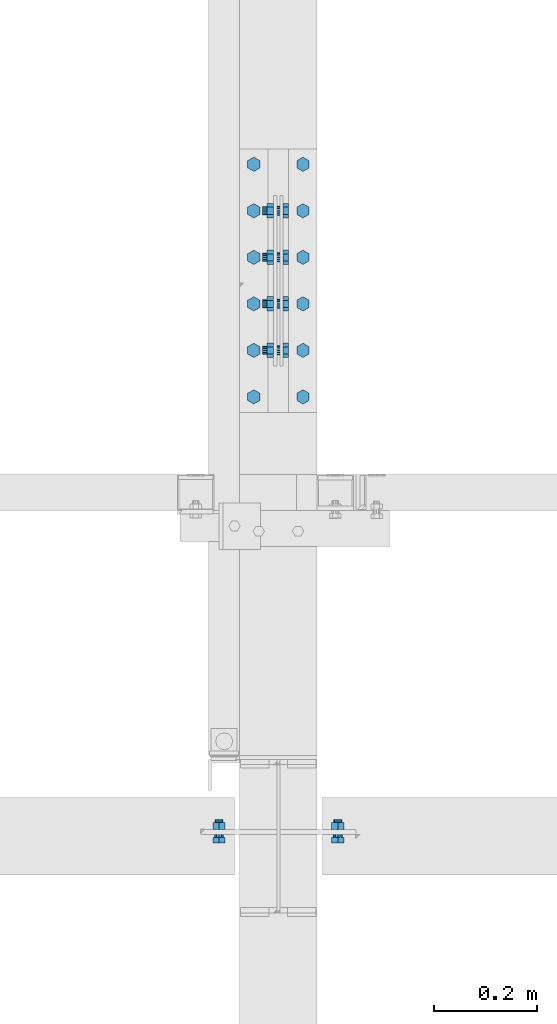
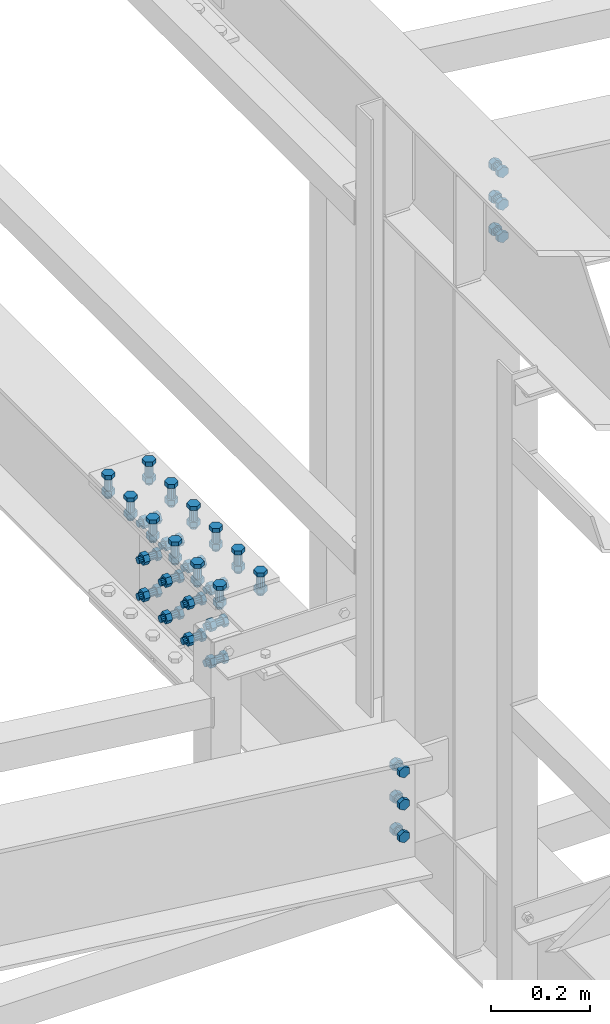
# One storey, part 158 of 3134: 8 mechanical fasteners, 4 elements without a shape of their own.
"""IFC2X3 building model written with IfcOpenShell, lengths in millimetres."""

from ifc_helpers import new_model, si_unit, frame, origin_with_axes, place, context, subcontext, project, spatial, faceted_brep, source, transform, mapped, material, type_object, element, aggregate, save


model = new_model("IFC2X3")

# Units and contexts
model_context = context("Model", 3, precision=1e-05, world=origin_with_axes())
body_context = subcontext(model_context, "Body", "Model", "MODEL_VIEW")
ifc_project = project(units=[si_unit("LENGTHUNIT", "METRE", prefix="MILLI"), si_unit("AREAUNIT", "SQUARE_METRE"), si_unit("VOLUMEUNIT", "CUBIC_METRE"), si_unit("MASSUNIT", "GRAM", prefix="KILO"), si_unit("TIMEUNIT", "SECOND"), si_unit("PLANEANGLEUNIT", "RADIAN"), si_unit("SOLIDANGLEUNIT", "STERADIAN"), si_unit("THERMODYNAMICTEMPERATUREUNIT", "DEGREE_CELSIUS"), si_unit("LUMINOUSINTENSITYUNIT", "LUMEN")], contexts=[model_context])

# Site, building, storey
site_placement = place(None, origin_with_axes())
site = spatial("IfcSite", under=ifc_project, at=site_placement, CompositionType="ELEMENT")
building_placement = place(site_placement, origin_with_axes())
building = spatial("IfcBuilding", under=site, at=building_placement, Name="Undefined", CompositionType="ELEMENT")
storey_placement = place(building_placement, origin_with_axes())
storey = spatial("IfcBuildingStorey", under=building, at=storey_placement, Name="Undefined", CompositionType="ELEMENT", Elevation=0.0)

# Assembly, mechanical fastener
assembly_1_placement = place(storey_placement, origin_with_axes())
assembly_1 = element("IfcElementAssembly", 1, at=assembly_1_placement, inside=storey, Name="300", AssemblyPlace="NOTDEFINED", PredefinedType="RIGID_FRAME")
ifc_material = material(Name="8.8")
mechanical_fastener_type = type_object("IfcMechanicalFastenerType", Name="Bolt assembly")
shared_shape_1 = source(origin_with_axes(), body_context, "Body", "Brep", [
    faceted_brep([(13.856406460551, -13.0499999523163, 0.0), (6.92820323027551, -13.0499999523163, 12.0), (-6.92820323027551, -13.0499999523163, 12.0), (-13.856406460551, -13.0499999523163, 1.69692038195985e-15), (-6.92820323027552, -13.0499999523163, -12.0), (6.9282032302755, -13.0499999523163, -12.0), (6.9282032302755, -3.04999995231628, -12.0), (-6.92820323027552, -3.04999995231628, -12.0), (-13.856406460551, -3.04999995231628, 1.69692038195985e-15), (-6.92820323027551, -3.04999995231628, 12.0), (6.92820323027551, -3.04999995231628, 12.0), (13.856406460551, -3.04999995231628, 0.0), (8.0, -3.04999995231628, 0.0), (6.92820323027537, -3.04999995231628, 4.00000000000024), (3.99999999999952, -3.04999995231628, 6.92820323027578), (-8.29068785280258e-13, -3.04999995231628, 8.0), (-4.00000000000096, -3.04999995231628, 6.92820323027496), (-6.9282032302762, -3.04999995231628, 3.99999999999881), (-8.0, -3.04999995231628, -1.65813757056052e-12), (-6.92820323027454, -3.04999995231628, -4.00000000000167), (-3.99999999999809, -3.04999995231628, -6.92820323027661), (2.47832457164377e-12, -3.04999995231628, -8.0), (4.00000000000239, -3.04999995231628, -6.92820323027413), (6.92820323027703, -3.04999995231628, -3.99999999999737), (6.92820323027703, 31.9500000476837, -3.99999999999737), (4.00000000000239, 31.9500000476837, -6.92820323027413), (2.47832457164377e-12, 31.9500000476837, -8.0), (-3.99999999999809, 31.9500000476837, -6.92820323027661), (-6.92820323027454, 31.9500000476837, -4.00000000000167), (-8.0, 31.9500000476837, -1.65813757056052e-12), (-6.9282032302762, 31.9500000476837, 3.99999999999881), (-4.00000000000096, 31.9500000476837, 6.92820323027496), (-8.29068785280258e-13, 31.9500000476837, 8.0), (3.99999999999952, 31.9500000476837, 6.92820323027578), (6.92820323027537, 31.9500000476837, 4.00000000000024), (8.0, 31.9500000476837, 0.0), (13.856406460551, 13.0500000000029, 0.0), (6.92820323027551, 13.0500000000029, 12.0), (-6.92820323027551, 13.0500000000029, 12.0), (-13.856406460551, 13.0500000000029, 1.69692038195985e-15), (-6.92820323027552, 13.0500000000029, -12.0), (6.9282032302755, 13.0500000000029, -12.0), (6.9282032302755, 26.0500000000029, -12.0), (-6.92820323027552, 26.0500000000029, -12.0), (-13.856406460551, 26.0500000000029, 1.69692038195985e-15), (-6.92820323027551, 26.0500000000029, 12.0), (6.92820323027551, 26.0500000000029, 12.0), (13.856406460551, 26.0500000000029, 0.0)], [[[0, 1, 2, 3, 4, 5]], [[6, 7, 8, 9, 10, 11]], [[0, 11, 10, 1]], [[1, 10, 9, 2]], [[2, 9, 8, 3]], [[3, 8, 7, 4]], [[4, 7, 6, 5]], [[5, 6, 11, 0]], [[12, 13, 14, 15, 16, 17, 18, 19, 20, 21, 22, 23]], [[24, 25, 26, 27, 28, 29, 30, 31, 32, 33, 34, 35]], [[12, 35, 34, 13]], [[13, 34, 33, 14]], [[14, 33, 32, 15]], [[15, 32, 31, 16]], [[16, 31, 30, 17]], [[17, 30, 29, 18]], [[18, 29, 28, 19]], [[19, 28, 27, 20]], [[20, 27, 26, 21]], [[21, 26, 25, 22]], [[22, 25, 24, 23]], [[23, 24, 35, 12]], [[36, 37, 38, 39, 40, 41]], [[42, 43, 44, 45, 46, 47]], [[36, 47, 46, 37]], [[37, 46, 45, 38]], [[38, 45, 44, 39]], [[39, 44, 43, 40]], [[40, 43, 42, 41]], [[41, 42, 47, 36]]]),
    faceted_brep([(9.0, 2.95000000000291, 0.0), (7.79422863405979, 2.95000000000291, 4.50000000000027), (4.49999999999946, 2.95000000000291, 7.79422863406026), (-9.3270238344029e-13, 2.95000000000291, 9.0), (-4.50000000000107, 2.95000000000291, 7.79422863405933), (-7.79422863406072, 2.95000000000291, 4.49999999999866), (-9.0, 2.95000000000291, -1.86540476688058e-12), (-7.79422863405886, 2.95000000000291, -4.50000000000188), (-4.49999999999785, 2.95000000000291, -7.79422863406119), (2.78811514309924e-12, 2.95000000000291, -9.0), (4.50000000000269, 2.95000000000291, -7.7942286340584), (7.79422863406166, 2.95000000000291, -4.49999999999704), (7.79422863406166, 13.0500000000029, -4.49999999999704), (4.50000000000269, 13.0500000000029, -7.7942286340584), (2.78811514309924e-12, 13.0500000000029, -9.0), (-4.49999999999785, 13.0500000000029, -7.79422863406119), (-7.79422863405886, 13.0500000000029, -4.50000000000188), (-9.0, 13.0500000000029, -1.86540476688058e-12), (-7.79422863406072, 13.0500000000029, 4.49999999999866), (-4.50000000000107, 13.0500000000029, 7.79422863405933), (-9.3270238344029e-13, 13.0500000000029, 9.0), (4.49999999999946, 13.0500000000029, 7.79422863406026), (7.79422863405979, 13.0500000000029, 4.50000000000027), (9.0, 13.0500000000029, 0.0), (9.0, -2.94999995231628, 0.0), (7.79422863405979, -2.94999995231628, 4.50000000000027), (4.49999999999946, -2.94999995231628, 7.79422863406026), (-9.3270238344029e-13, -2.94999995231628, 9.0), (-4.50000000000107, -2.94999995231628, 7.79422863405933), (-7.79422863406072, -2.94999995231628, 4.49999999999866), (-9.0, -2.94999995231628, -1.86540476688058e-12), (-7.79422863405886, -2.94999995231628, -4.50000000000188), (-4.49999999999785, -2.94999995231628, -7.79422863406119), (2.78811514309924e-12, -2.94999995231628, -9.0), (4.50000000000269, -2.94999995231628, -7.7942286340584), (7.79422863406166, -2.94999995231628, -4.49999999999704), (7.79422863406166, 3.14999995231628, -4.49999999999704), (4.50000000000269, 3.14999995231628, -7.7942286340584), (2.78811514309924e-12, 3.14999995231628, -9.0), (-4.49999999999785, 3.14999995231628, -7.79422863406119), (-7.79422863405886, 3.14999995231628, -4.50000000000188), (-9.0, 3.14999995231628, -1.86540476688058e-12), (-7.79422863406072, 3.14999995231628, 4.49999999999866), (-4.50000000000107, 3.14999995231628, 7.79422863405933), (-9.3270238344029e-13, 3.14999995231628, 9.0), (4.49999999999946, 3.14999995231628, 7.79422863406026), (7.79422863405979, 3.14999995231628, 4.50000000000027), (9.0, 3.14999995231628, 0.0)], [[[0, 1, 2, 3, 4, 5, 6, 7, 8, 9, 10, 11]], [[12, 13, 14, 15, 16, 17, 18, 19, 20, 21, 22, 23]], [[0, 23, 22, 1]], [[1, 22, 21, 2]], [[2, 21, 20, 3]], [[3, 20, 19, 4]], [[4, 19, 18, 5]], [[5, 18, 17, 6]], [[6, 17, 16, 7]], [[7, 16, 15, 8]], [[8, 15, 14, 9]], [[9, 14, 13, 10]], [[10, 13, 12, 11]], [[11, 12, 23, 0]], [[24, 25, 26, 27, 28, 29, 30, 31, 32, 33, 34, 35]], [[36, 37, 38, 39, 40, 41, 42, 43, 44, 45, 46, 47]], [[24, 47, 46, 25]], [[25, 46, 45, 26]], [[26, 45, 44, 27]], [[27, 44, 43, 28]], [[28, 43, 42, 29]], [[29, 42, 41, 30]], [[30, 41, 40, 31]], [[31, 40, 39, 32]], [[32, 39, 38, 33]], [[33, 38, 37, 34]], [[34, 37, 36, 35]], [[35, 36, 47, 24]]]),
])
mechanical_fastener_1_placement = place(assembly_1_placement, frame((55760.0, 27250.0, 4337.44269270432), z_axis=(1.0, 0.0, 0.0), x_axis=(0.0, 0.0, -1.0)))
mechanical_fastener_1 = element("IfcMechanicalFastener", 2, at=mechanical_fastener_1_placement, type_object=mechanical_fastener_type, material=ifc_material, Name="Bolt assembly", NominalDiameter=16.0, NominalLength=35.0, context=body_context, shape_type="MappedRepresentation", body=[
    mapped(shared_shape_1, transform((0.0, 0.0, 0.0))),
    mapped(shared_shape_1, transform((80.0, 0.0, 0.0))),
    mapped(shared_shape_1, transform((160.0, 0.0, 0.0))),
])
aggregate(assembly_1, [mechanical_fastener_1])

assembly_2_placement = place(storey_placement, origin_with_axes())
assembly_2 = element("IfcElementAssembly", 3, at=assembly_2_placement, inside=storey, Name="300", AssemblyPlace="NOTDEFINED", PredefinedType="RIGID_FRAME")
mechanical_fastener_2_placement = place(assembly_2_placement, frame((55990.0, 27250.0, 5735.35014950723), z_axis=(1.0, 0.0, 0.0), x_axis=(0.0, 0.0, -1.0)))
mechanical_fastener_2 = element("IfcMechanicalFastener", 4, at=mechanical_fastener_2_placement, type_object=mechanical_fastener_type, material=ifc_material, Name="Bolt assembly", NominalDiameter=16.0, NominalLength=35.0, context=body_context, shape_type="MappedRepresentation", body=[
    mapped(shared_shape_1, transform((0.0, 0.0, 0.0))),
    mapped(shared_shape_1, transform((80.0, 0.0, 0.0))),
    mapped(shared_shape_1, transform((160.0, 0.0, 0.0))),
])
aggregate(assembly_2, [mechanical_fastener_2])

assembly_3_placement = place(storey_placement, origin_with_axes())
assembly_3 = element("IfcElementAssembly", 5, at=assembly_3_placement, inside=storey, Name="300", AssemblyPlace="NOTDEFINED", PredefinedType="RIGID_FRAME")
shared_shape_2 = source(origin_with_axes(), body_context, "Body", "Brep", [
    faceted_brep([(13.856406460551, -19.0499999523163, 0.0), (6.92820323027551, -19.0499999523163, 12.0), (-6.92820323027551, -19.0499999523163, 12.0), (-13.856406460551, -19.0499999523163, 1.69692038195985e-15), (-6.92820323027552, -19.0499999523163, -12.0), (6.9282032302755, -19.0499999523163, -12.0), (6.9282032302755, -9.04999995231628, -12.0), (-6.92820323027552, -9.04999995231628, -12.0), (-13.856406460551, -9.04999995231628, 1.69692038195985e-15), (-6.92820323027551, -9.04999995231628, 12.0), (6.92820323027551, -9.04999995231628, 12.0), (13.856406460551, -9.04999995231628, 0.0), (8.0, -9.04999995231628, 0.0), (6.92820323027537, -9.04999995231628, 4.00000000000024), (3.99999999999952, -9.04999995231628, 6.92820323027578), (-8.29068785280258e-13, -9.04999995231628, 8.0), (-4.00000000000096, -9.04999995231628, 6.92820323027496), (-6.9282032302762, -9.04999995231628, 3.99999999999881), (-8.0, -9.04999995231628, -1.65813757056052e-12), (-6.92820323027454, -9.04999995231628, -4.00000000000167), (-3.99999999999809, -9.04999995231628, -6.92820323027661), (2.47832457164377e-12, -9.04999995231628, -8.0), (4.00000000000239, -9.04999995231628, -6.92820323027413), (6.92820323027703, -9.04999995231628, -3.99999999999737), (6.92820323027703, 30.9500000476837, -3.99999999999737), (4.00000000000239, 30.9500000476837, -6.92820323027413), (2.47832457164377e-12, 30.9500000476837, -8.0), (-3.99999999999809, 30.9500000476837, -6.92820323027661), (-6.92820323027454, 30.9500000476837, -4.00000000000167), (-8.0, 30.9500000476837, -1.65813757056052e-12), (-6.9282032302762, 30.9500000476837, 3.99999999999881), (-4.00000000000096, 30.9500000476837, 6.92820323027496), (-8.29068785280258e-13, 30.9500000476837, 8.0), (3.99999999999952, 30.9500000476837, 6.92820323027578), (6.92820323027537, 30.9500000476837, 4.00000000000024), (8.0, 30.9500000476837, 0.0), (13.856406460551, 9.04999995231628, 0.0), (6.92820323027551, 9.04999995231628, 12.0), (-6.92820323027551, 9.04999995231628, 12.0), (-13.856406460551, 9.04999995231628, 1.69692038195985e-15), (-6.92820323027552, 9.04999995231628, -12.0), (6.9282032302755, 9.04999995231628, -12.0), (6.9282032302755, 22.0499999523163, -12.0), (-6.92820323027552, 22.0499999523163, -12.0), (-13.856406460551, 22.0499999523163, 1.69692038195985e-15), (-6.92820323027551, 22.0499999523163, 12.0), (6.92820323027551, 22.0499999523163, 12.0), (13.856406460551, 22.0499999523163, 0.0)], [[[0, 1, 2, 3, 4, 5]], [[6, 7, 8, 9, 10, 11]], [[0, 11, 10, 1]], [[1, 10, 9, 2]], [[2, 9, 8, 3]], [[3, 8, 7, 4]], [[4, 7, 6, 5]], [[5, 6, 11, 0]], [[12, 13, 14, 15, 16, 17, 18, 19, 20, 21, 22, 23]], [[24, 25, 26, 27, 28, 29, 30, 31, 32, 33, 34, 35]], [[12, 35, 34, 13]], [[13, 34, 33, 14]], [[14, 33, 32, 15]], [[15, 32, 31, 16]], [[16, 31, 30, 17]], [[17, 30, 29, 18]], [[18, 29, 28, 19]], [[19, 28, 27, 20]], [[20, 27, 26, 21]], [[21, 26, 25, 22]], [[22, 25, 24, 23]], [[23, 24, 35, 12]], [[36, 37, 38, 39, 40, 41]], [[42, 43, 44, 45, 46, 47]], [[36, 47, 46, 37]], [[37, 46, 45, 38]], [[38, 45, 44, 39]], [[39, 44, 43, 40]], [[40, 43, 42, 41]], [[41, 42, 47, 36]]]),
    faceted_brep([(9.0, -8.94999995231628, 0.0), (7.79422863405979, -8.94999995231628, 4.50000000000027), (4.49999999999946, -8.94999995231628, 7.79422863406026), (-9.3270238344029e-13, -8.94999995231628, 9.0), (-4.50000000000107, -8.94999995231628, 7.79422863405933), (-7.79422863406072, -8.94999995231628, 4.49999999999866), (-9.0, -8.94999995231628, -1.86540476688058e-12), (-7.79422863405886, -8.94999995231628, -4.50000000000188), (-4.49999999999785, -8.94999995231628, -7.79422863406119), (2.78811514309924e-12, -8.94999995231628, -9.0), (4.50000000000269, -8.94999995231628, -7.7942286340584), (7.79422863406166, -8.94999995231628, -4.49999999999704), (7.79422863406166, -2.94999995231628, -4.49999999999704), (4.50000000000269, -2.94999995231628, -7.7942286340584), (2.78811514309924e-12, -2.94999995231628, -9.0), (-4.49999999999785, -2.94999995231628, -7.79422863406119), (-7.79422863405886, -2.94999995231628, -4.50000000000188), (-9.0, -2.94999995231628, -1.86540476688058e-12), (-7.79422863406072, -2.94999995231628, 4.49999999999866), (-4.50000000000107, -2.94999995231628, 7.79422863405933), (-9.3270238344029e-13, -2.94999995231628, 9.0), (4.49999999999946, -2.94999995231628, 7.79422863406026), (7.79422863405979, -2.94999995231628, 4.50000000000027), (9.0, -2.94999995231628, 0.0), (9.0, -3.04999995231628, 0.0), (7.79422863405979, -3.04999995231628, 4.50000000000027), (4.49999999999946, -3.04999995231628, 7.79422863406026), (-9.3270238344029e-13, -3.04999995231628, 9.0), (-4.50000000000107, -3.04999995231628, 7.79422863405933), (-7.79422863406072, -3.04999995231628, 4.49999999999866), (-9.0, -3.04999995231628, -1.86540476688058e-12), (-7.79422863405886, -3.04999995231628, -4.50000000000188), (-4.49999999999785, -3.04999995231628, -7.79422863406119), (2.78811514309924e-12, -3.04999995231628, -9.0), (4.50000000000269, -3.04999995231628, -7.7942286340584), (7.79422863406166, -3.04999995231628, -4.49999999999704), (7.79422863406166, 3.04999995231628, -4.49999999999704), (4.50000000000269, 3.04999995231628, -7.7942286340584), (2.78811514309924e-12, 3.04999995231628, -9.0), (-4.49999999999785, 3.04999995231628, -7.79422863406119), (-7.79422863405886, 3.04999995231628, -4.50000000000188), (-9.0, 3.04999995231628, -1.86540476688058e-12), (-7.79422863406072, 3.04999995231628, 4.49999999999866), (-4.50000000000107, 3.04999995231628, 7.79422863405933), (-9.3270238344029e-13, 3.04999995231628, 9.0), (4.49999999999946, 3.04999995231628, 7.79422863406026), (7.79422863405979, 3.04999995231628, 4.50000000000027), (9.0, 3.04999995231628, 0.0), (9.0, 2.95000000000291, 0.0), (7.79422863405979, 2.95000000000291, 4.50000000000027), (4.49999999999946, 2.95000000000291, 7.79422863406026), (-9.3270238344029e-13, 2.95000000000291, 9.0), (-4.50000000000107, 2.95000000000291, 7.79422863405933), (-7.79422863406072, 2.95000000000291, 4.49999999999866), (-9.0, 2.95000000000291, -1.86540476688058e-12), (-7.79422863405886, 2.95000000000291, -4.50000000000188), (-4.49999999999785, 2.95000000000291, -7.79422863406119), (2.78811514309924e-12, 2.95000000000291, -9.0), (4.50000000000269, 2.95000000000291, -7.7942286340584), (7.79422863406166, 2.95000000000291, -4.49999999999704), (7.79422863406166, 9.04999995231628, -4.49999999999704), (4.50000000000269, 9.04999995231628, -7.7942286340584), (2.78811514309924e-12, 9.04999995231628, -9.0), (-4.49999999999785, 9.04999995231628, -7.79422863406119), (-7.79422863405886, 9.04999995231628, -4.50000000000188), (-9.0, 9.04999995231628, -1.86540476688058e-12), (-7.79422863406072, 9.04999995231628, 4.49999999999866), (-4.50000000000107, 9.04999995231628, 7.79422863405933), (-9.3270238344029e-13, 9.04999995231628, 9.0), (4.49999999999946, 9.04999995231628, 7.79422863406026), (7.79422863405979, 9.04999995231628, 4.50000000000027), (9.0, 9.04999995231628, 0.0)], [[[0, 1, 2, 3, 4, 5, 6, 7, 8, 9, 10, 11]], [[12, 13, 14, 15, 16, 17, 18, 19, 20, 21, 22, 23]], [[0, 23, 22, 1]], [[1, 22, 21, 2]], [[2, 21, 20, 3]], [[3, 20, 19, 4]], [[4, 19, 18, 5]], [[5, 18, 17, 6]], [[6, 17, 16, 7]], [[7, 16, 15, 8]], [[8, 15, 14, 9]], [[9, 14, 13, 10]], [[10, 13, 12, 11]], [[11, 12, 23, 0]], [[24, 25, 26, 27, 28, 29, 30, 31, 32, 33, 34, 35]], [[36, 37, 38, 39, 40, 41, 42, 43, 44, 45, 46, 47]], [[24, 47, 46, 25]], [[25, 46, 45, 26]], [[26, 45, 44, 27]], [[27, 44, 43, 28]], [[28, 43, 42, 29]], [[29, 42, 41, 30]], [[30, 41, 40, 31]], [[31, 40, 39, 32]], [[32, 39, 38, 33]], [[33, 38, 37, 34]], [[34, 37, 36, 35]], [[35, 36, 47, 24]], [[48, 49, 50, 51, 52, 53, 54, 55, 56, 57, 58, 59]], [[60, 61, 62, 63, 64, 65, 66, 67, 68, 69, 70, 71]], [[48, 71, 70, 49]], [[49, 70, 69, 50]], [[50, 69, 68, 51]], [[51, 68, 67, 52]], [[52, 67, 66, 53]], [[53, 66, 65, 54]], [[54, 65, 64, 55]], [[55, 64, 63, 56]], [[56, 63, 62, 57]], [[57, 62, 61, 58]], [[58, 61, 60, 59]], [[59, 60, 71, 48]]]),
])
mechanical_fastener_3_placement = place(assembly_3_placement, frame((55875.0, 28369.9, 4088.5), z_axis=(0.0, 0.0, 1.0), x_axis=(0.0, 1.0, 0.0)))
mechanical_fastener_3 = element("IfcMechanicalFastener", 6, at=mechanical_fastener_3_placement, type_object=mechanical_fastener_type, material=ifc_material, Name="Bolt assembly", NominalDiameter=16.0, NominalLength=40.0, context=body_context, shape_type="MappedRepresentation", body=[
    mapped(shared_shape_2, transform((0.0, 0.0, -90.0))),
    mapped(shared_shape_2, transform((90.0, 0.0, -90.0))),
    mapped(shared_shape_2, transform((0.0, 0.0, 0.0))),
    mapped(shared_shape_2, transform((90.0, 0.0, 0.0))),
    mapped(shared_shape_2, transform((0.0, 0.0, 90.0))),
    mapped(shared_shape_2, transform((90.0, 0.0, 90.0))),
])

# Assembly, mechanical fasteners
assembly_4_placement = place(storey_placement, origin_with_axes())
assembly_4 = element("IfcElementAssembly", 7, at=assembly_4_placement, inside=storey, Name="300", AssemblyPlace="NOTDEFINED", PredefinedType="RIGID_FRAME")
mechanical_fastener_4_placement = place(assembly_4_placement, frame((55875.0, 28189.9, 4088.5), z_axis=(0.0, 0.0, 1.0), x_axis=(0.0, 1.0, 0.0)))
mechanical_fastener_4 = element("IfcMechanicalFastener", 8, at=mechanical_fastener_4_placement, type_object=mechanical_fastener_type, material=ifc_material, Name="Bolt assembly", NominalDiameter=16.0, NominalLength=40.0, context=body_context, shape_type="MappedRepresentation", body=[
    mapped(shared_shape_2, transform((0.0, 0.0, -90.0))),
    mapped(shared_shape_2, transform((90.0, 0.0, -90.0))),
    mapped(shared_shape_2, transform((0.0, 0.0, 0.0))),
    mapped(shared_shape_2, transform((90.0, 0.0, 0.0))),
    mapped(shared_shape_2, transform((0.0, 0.0, 90.0))),
    mapped(shared_shape_2, transform((90.0, 0.0, 90.0))),
])
shared_shape_3 = source(origin_with_axes(), body_context, "Body", "Brep", [
    faceted_brep([(13.856406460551, -29.1999998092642, 0.0), (6.92820323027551, -29.1999998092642, 12.0), (-6.92820323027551, -29.1999998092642, 12.0), (-13.856406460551, -29.1999998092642, 1.69692038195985e-15), (-6.92820323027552, -29.1999998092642, -12.0), (6.9282032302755, -29.1999998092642, -12.0), (6.9282032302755, -19.199990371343, -12.0), (-6.92820323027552, -19.199990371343, -12.0), (-13.856406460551, -19.199990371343, 1.69692038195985e-15), (-6.92820323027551, -19.199990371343, 12.0), (6.92820323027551, -19.199990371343, 12.0), (13.856406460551, -19.199990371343, 0.0), (8.0, -19.1999998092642, 0.0), (6.92820323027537, -19.1999998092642, 4.00000000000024), (3.99999999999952, -19.1999998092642, 6.92820323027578), (-8.29068785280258e-13, -19.1999998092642, 8.0), (-4.00000000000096, -19.1999998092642, 6.92820323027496), (-6.9282032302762, -19.1999998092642, 3.99999999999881), (-8.0, -19.1999998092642, -1.65813757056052e-12), (-6.92820323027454, -19.1999998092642, -4.00000000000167), (-3.99999999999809, -19.1999998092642, -6.92820323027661), (2.47832457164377e-12, -19.1999998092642, -8.0), (4.00000000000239, -19.1999998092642, -6.92820323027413), (6.92820323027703, -19.1999998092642, -3.99999999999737), (6.92820323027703, 30.8000001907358, -3.99999999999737), (4.00000000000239, 30.8000001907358, -6.92820323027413), (2.47832457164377e-12, 30.8000001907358, -8.0), (-3.99999999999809, 30.8000001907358, -6.92820323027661), (-6.92820323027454, 30.8000001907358, -4.00000000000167), (-8.0, 30.8000001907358, -1.65813757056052e-12), (-6.9282032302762, 30.8000001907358, 3.99999999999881), (-4.00000000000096, 30.8000001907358, 6.92820323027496), (-8.29068785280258e-13, 30.8000001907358, 8.0), (3.99999999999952, 30.8000001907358, 6.92820323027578), (6.92820323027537, 30.8000001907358, 4.00000000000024), (8.0, 30.8000001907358, 0.0), (13.856406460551, 9.99999995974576, 0.0), (6.92820323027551, 9.99999995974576, 12.0), (-6.92820323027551, 9.99999995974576, 12.0), (-13.856406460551, 9.99999995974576, 1.69692038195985e-15), (-6.92820323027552, 9.99999995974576, -12.0), (6.9282032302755, 9.99999995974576, -12.0), (6.9282032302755, 22.9999913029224, -12.0), (-6.92820323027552, 22.9999913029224, -12.0), (-13.856406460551, 22.9999913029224, 1.69692038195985e-15), (-6.92820323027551, 22.9999913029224, 12.0), (6.92820323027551, 22.9999913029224, 12.0), (13.856406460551, 22.9999913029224, 0.0)], [[[0, 1, 2, 3, 4, 5]], [[6, 7, 8, 9, 10, 11]], [[0, 11, 10, 1]], [[1, 10, 9, 2]], [[2, 9, 8, 3]], [[3, 8, 7, 4]], [[4, 7, 6, 5]], [[5, 6, 11, 0]], [[12, 13, 14, 15, 16, 17, 18, 19, 20, 21, 22, 23]], [[24, 25, 26, 27, 28, 29, 30, 31, 32, 33, 34, 35]], [[12, 35, 34, 13]], [[13, 34, 33, 14]], [[14, 33, 32, 15]], [[15, 32, 31, 16]], [[16, 31, 30, 17]], [[17, 30, 29, 18]], [[18, 29, 28, 19]], [[19, 28, 27, 20]], [[20, 27, 26, 21]], [[21, 26, 25, 22]], [[22, 25, 24, 23]], [[23, 24, 35, 12]], [[36, 37, 38, 39, 40, 41]], [[42, 43, 44, 45, 46, 47]], [[36, 47, 46, 37]], [[37, 46, 45, 38]], [[38, 45, 44, 39]], [[39, 44, 43, 40]], [[40, 43, 42, 41]], [[41, 42, 47, 36]]]),
    faceted_brep([(9.0, -19.0999998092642, 0.0), (7.79422863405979, -19.0999998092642, 4.50000000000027), (4.49999999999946, -19.0999998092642, 7.79422863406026), (-9.3270238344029e-13, -19.0999998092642, 9.0), (-4.50000000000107, -19.0999998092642, 7.79422863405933), (-7.79422863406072, -19.0999998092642, 4.49999999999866), (-9.0, -19.0999998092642, -1.86540476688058e-12), (-7.79422863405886, -19.0999998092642, -4.50000000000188), (-4.49999999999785, -19.0999998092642, -7.79422863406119), (2.78811514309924e-12, -19.0999998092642, -9.0), (4.50000000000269, -19.0999998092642, -7.7942286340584), (7.79422863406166, -19.0999998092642, -4.49999999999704), (7.79422863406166, -9.09999037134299, -4.49999999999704), (4.50000000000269, -9.09999037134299, -7.7942286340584), (2.78811514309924e-12, -9.09999037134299, -9.0), (-4.49999999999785, -9.09999037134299, -7.79422863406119), (-7.79422863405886, -9.09999037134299, -4.50000000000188), (-9.0, -9.09999037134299, -1.86540476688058e-12), (-7.79422863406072, -9.09999037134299, 4.49999999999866), (-4.50000000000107, -9.09999037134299, 7.79422863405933), (-9.3270238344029e-13, -9.09999037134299, 9.0), (4.49999999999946, -9.09999037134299, 7.79422863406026), (7.79422863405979, -9.09999037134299, 4.50000000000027), (9.0, -9.09999037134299, 0.0), (9.0, -9.20000008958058, 0.0), (7.79422863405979, -9.20000008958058, 4.50000000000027), (4.49999999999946, -9.20000008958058, 7.79422863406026), (-9.3270238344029e-13, -9.20000008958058, 9.0), (-4.50000000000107, -9.20000008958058, 7.79422863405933), (-7.79422863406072, -9.20000008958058, 4.49999999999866), (-9.0, -9.20000008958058, -1.86540476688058e-12), (-7.79422863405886, -9.20000008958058, -4.50000000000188), (-4.49999999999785, -9.20000008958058, -7.79422863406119), (2.78811514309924e-12, -9.20000008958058, -9.0), (4.50000000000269, -9.20000008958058, -7.7942286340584), (7.79422863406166, -9.20000008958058, -4.49999999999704), (7.79422863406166, -3.46568413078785e-07, -4.49999999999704), (4.50000000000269, -3.46568413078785e-07, -7.7942286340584), (2.78811514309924e-12, -3.46568413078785e-07, -9.0), (-4.49999999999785, -3.46568413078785e-07, -7.79422863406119), (-7.79422863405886, -3.46568413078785e-07, -4.50000000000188), (-9.0, -3.46568413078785e-07, -1.86540476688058e-12), (-7.79422863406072, -3.46568413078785e-07, 4.49999999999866), (-4.50000000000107, -3.46568413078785e-07, 7.79422863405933), (-9.3270238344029e-13, -3.46568413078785e-07, 9.0), (4.49999999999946, -3.46568413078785e-07, 7.79422863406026), (7.79422863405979, -3.46568413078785e-07, 4.50000000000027), (9.0, -3.46568413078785e-07, 0.0), (9.0, -0.1, 0.0), (7.79422863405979, -0.1, 4.50000000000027), (4.49999999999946, -0.1, 7.79422863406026), (-9.3270238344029e-13, -0.1, 9.0), (-4.50000000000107, -0.1, 7.79422863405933), (-7.79422863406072, -0.1, 4.49999999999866), (-9.0, -0.1, -1.86540476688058e-12), (-7.79422863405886, -0.1, -4.50000000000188), (-4.49999999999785, -0.1, -7.79422863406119), (2.78811514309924e-12, -0.1, -9.0), (4.50000000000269, -0.1, -7.7942286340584), (7.79422863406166, -0.1, -4.49999999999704), (7.79422863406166, 9.99999995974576, -4.49999999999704), (4.50000000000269, 9.99999995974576, -7.7942286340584), (2.78811514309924e-12, 9.99999995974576, -9.0), (-4.49999999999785, 9.99999995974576, -7.79422863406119), (-7.79422863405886, 9.99999995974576, -4.50000000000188), (-9.0, 9.99999995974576, -1.86540476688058e-12), (-7.79422863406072, 9.99999995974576, 4.49999999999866), (-4.50000000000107, 9.99999995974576, 7.79422863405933), (-9.3270238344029e-13, 9.99999995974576, 9.0), (4.49999999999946, 9.99999995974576, 7.79422863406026), (7.79422863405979, 9.99999995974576, 4.50000000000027), (9.0, 9.99999995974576, 0.0)], [[[0, 1, 2, 3, 4, 5, 6, 7, 8, 9, 10, 11]], [[12, 13, 14, 15, 16, 17, 18, 19, 20, 21, 22, 23]], [[0, 23, 22, 1]], [[1, 22, 21, 2]], [[2, 21, 20, 3]], [[3, 20, 19, 4]], [[4, 19, 18, 5]], [[5, 18, 17, 6]], [[6, 17, 16, 7]], [[7, 16, 15, 8]], [[8, 15, 14, 9]], [[9, 14, 13, 10]], [[10, 13, 12, 11]], [[11, 12, 23, 0]], [[24, 25, 26, 27, 28, 29, 30, 31, 32, 33, 34, 35]], [[36, 37, 38, 39, 40, 41, 42, 43, 44, 45, 46, 47]], [[24, 47, 46, 25]], [[25, 46, 45, 26]], [[26, 45, 44, 27]], [[27, 44, 43, 28]], [[28, 43, 42, 29]], [[29, 42, 41, 30]], [[30, 41, 40, 31]], [[31, 40, 39, 32]], [[32, 39, 38, 33]], [[33, 38, 37, 34]], [[34, 37, 36, 35]], [[35, 36, 47, 24]], [[48, 49, 50, 51, 52, 53, 54, 55, 56, 57, 58, 59]], [[60, 61, 62, 63, 64, 65, 66, 67, 68, 69, 70, 71]], [[48, 71, 70, 49]], [[49, 70, 69, 50]], [[50, 69, 68, 51]], [[51, 68, 67, 52]], [[52, 67, 66, 53]], [[53, 66, 65, 54]], [[54, 65, 64, 55]], [[55, 64, 63, 56]], [[56, 63, 62, 57]], [[57, 62, 61, 58]], [[58, 61, 60, 59]], [[59, 60, 71, 48]]]),
])
mechanical_fastener_5_placement = place(assembly_4_placement, frame((55922.5, 28099.9, 4227.80000019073), z_axis=(-1.0, 0.0, 0.0), x_axis=(0.0, 1.0, 0.0)))
mechanical_fastener_5 = element("IfcMechanicalFastener", 9, at=mechanical_fastener_5_placement, type_object=mechanical_fastener_type, material=ifc_material, Name="Bolt assembly", NominalDiameter=16.0, NominalLength=50.0, context=body_context, shape_type="MappedRepresentation", body=[
    mapped(shared_shape_3, transform((0.0, 0.0, 0.0))),
    mapped(shared_shape_3, transform((90.0, 0.0, 0.0))),
    mapped(shared_shape_3, transform((180.0, 0.0, 0.0))),
])

# Mechanical fastener
mechanical_fastener_6_placement = place(assembly_3_placement, frame((55922.5, 28369.9, 4227.80000019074), z_axis=(-1.0, 0.0, 0.0), x_axis=(0.0, 1.0, 0.0)))
mechanical_fastener_6 = element("IfcMechanicalFastener", 10, at=mechanical_fastener_6_placement, type_object=mechanical_fastener_type, material=ifc_material, Name="Bolt assembly", NominalDiameter=16.0, NominalLength=50.0, context=body_context, shape_type="MappedRepresentation", body=[
    mapped(shared_shape_3, transform((0.0, 0.0, 0.0))),
    mapped(shared_shape_3, transform((90.0, 0.0, 0.0))),
    mapped(shared_shape_3, transform((180.0, 0.0, 0.0))),
])

mechanical_fastener_7_placement = place(assembly_3_placement, frame((55827.5, 28369.9, 4227.80000019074), z_axis=(-1.0, 0.0, 0.0), x_axis=(0.0, 1.0, 0.0)))
mechanical_fastener_7 = element("IfcMechanicalFastener", 11, at=mechanical_fastener_7_placement, type_object=mechanical_fastener_type, material=ifc_material, Name="Bolt assembly", NominalDiameter=16.0, NominalLength=50.0, context=body_context, shape_type="MappedRepresentation", body=[
    mapped(shared_shape_3, transform((0.0, 0.0, 0.0))),
    mapped(shared_shape_3, transform((90.0, 0.0, 0.0))),
    mapped(shared_shape_3, transform((180.0, 0.0, 0.0))),
])

aggregate(assembly_3, [mechanical_fastener_3, mechanical_fastener_6, mechanical_fastener_7])

mechanical_fastener_8_placement = place(assembly_4_placement, frame((55827.5, 28099.9, 4227.80000019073), z_axis=(-1.0, 0.0, 0.0), x_axis=(0.0, 1.0, 0.0)))
mechanical_fastener_8 = element("IfcMechanicalFastener", 12, at=mechanical_fastener_8_placement, type_object=mechanical_fastener_type, material=ifc_material, Name="Bolt assembly", NominalDiameter=16.0, NominalLength=50.0, context=body_context, shape_type="MappedRepresentation", body=[
    mapped(shared_shape_3, transform((0.0, 0.0, 0.0))),
    mapped(shared_shape_3, transform((90.0, 0.0, 0.0))),
    mapped(shared_shape_3, transform((180.0, 0.0, 0.0))),
])

aggregate(assembly_4, [mechanical_fastener_4, mechanical_fastener_5, mechanical_fastener_8])

save(model, "model.ifc")
